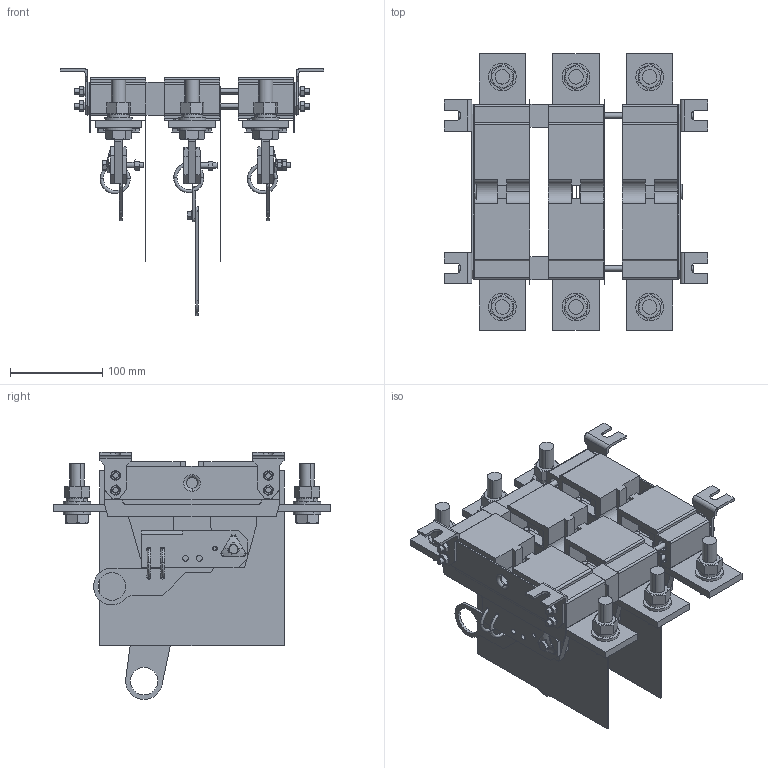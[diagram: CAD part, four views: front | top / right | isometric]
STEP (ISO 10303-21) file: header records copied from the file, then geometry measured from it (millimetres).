
FILE_DESCRIPTION (( 'STEP AP214' ), '1' );
FILE_NAME ('Ðàçúåäèíèòåëü ÐÅ19-41-31160-1000À-ÓÕË3-ÊÝÀÇ.STEP', '2023-08-21T10:24:05', ( '' ), ( '' ), 'SwSTEP 2.0', 'SolidWorks 2018', '' );
FILE_SCHEMA (( 'AUTOMOTIVE_DESIGN' ));
Length unit declared in the file: millimetre
Products named in the file (1): Ðàçúåäèíèòåëü ÐÅ19-41-31160-1000À-ÓÕË3-ÊÝÀÇ
Bounding box: 286 x 300 x 268.3 mm (x, y, z)
Surface area: 633178.6 mm2 (no closed solid volume)
Topology: 0 solids, 163 shells, 1144 faces, 4019 edges, 3030 vertices
Faces by surface type: plane 711, cylinder 293, cone 92, torus 44, sphere 4
Entity records: 58199 total; most frequent: CARTESIAN_POINT 11395, DIRECTION 7061, ORIENTED_EDGE 6158, EDGE_CURVE 4011, VERTEX_POINT 3030, AXIS2_PLACEMENT_3D 2464, LINE 2133, VECTOR 2133
